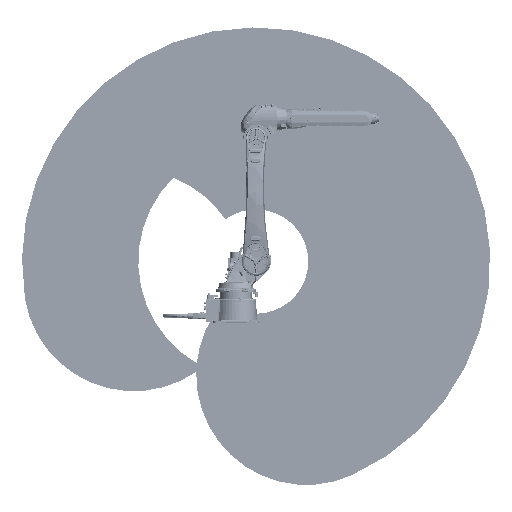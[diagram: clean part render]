
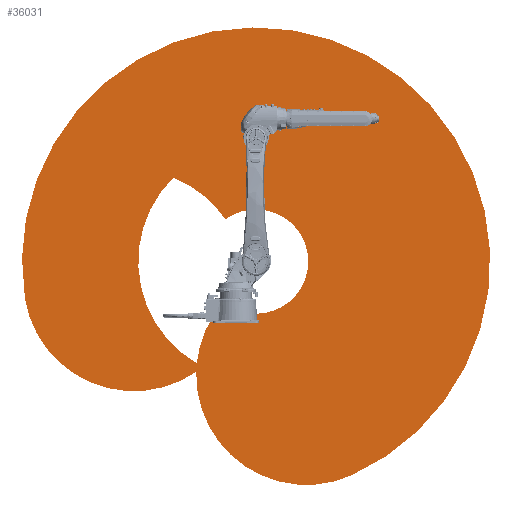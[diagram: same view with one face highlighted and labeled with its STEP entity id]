
A CAD part, front view. The second image highlights one B-rep face of the part: STEP entity #36031.
In plain terms, the highlighted planar face has unit normal (0, -1, 0).
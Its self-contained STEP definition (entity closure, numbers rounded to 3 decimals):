
#6791=PLANE('',#120644);
#36031=ADVANCED_FACE('',(#40790,#40791),#6791,.T.);
#40790=FACE_BOUND('',#49305,.T.);
#40791=FACE_BOUND('',#49306,.T.);
#49305=EDGE_LOOP('',(#79723,#79724,#79725));
#49306=EDGE_LOOP('',(#79726,#79727,#79728,#79729));
#79723=ORIENTED_EDGE('',*,*,#104966,.T.);
#79724=ORIENTED_EDGE('',*,*,#104967,.T.);
#79725=ORIENTED_EDGE('',*,*,#104968,.T.);
#79726=ORIENTED_EDGE('',*,*,#104969,.T.);
#79727=ORIENTED_EDGE('',*,*,#104970,.T.);
#79728=ORIENTED_EDGE('',*,*,#104971,.T.);
#79729=ORIENTED_EDGE('',*,*,#104972,.T.);
#89751=VERTEX_POINT('',#272351);
#89752=VERTEX_POINT('',#272352);
#89753=VERTEX_POINT('',#272354);
#89754=VERTEX_POINT('',#272357);
#89755=VERTEX_POINT('',#272358);
#89756=VERTEX_POINT('',#272360);
#89757=VERTEX_POINT('',#272362);
#104966=EDGE_CURVE('',#89751,#89752,#109984,.T.);
#104967=EDGE_CURVE('',#89752,#89753,#109985,.T.);
#104968=EDGE_CURVE('',#89753,#89751,#109986,.T.);
#104969=EDGE_CURVE('',#89754,#89755,#109987,.T.);
#104970=EDGE_CURVE('',#89755,#89756,#109988,.T.);
#104971=EDGE_CURVE('',#89756,#89757,#109989,.T.);
#104972=EDGE_CURVE('',#89757,#89754,#109990,.T.);
#109984=CIRCLE('',#120637,872.983);
#109985=CIRCLE('',#120638,872.983);
#109986=CIRCLE('',#120639,1852.983);
#109987=CIRCLE('',#120640,872.983);
#109988=CIRCLE('',#120641,932.588);
#109989=CIRCLE('',#120642,872.983);
#109990=CIRCLE('',#120643,412.83);
#120637=AXIS2_PLACEMENT_3D('',#272350,#148544,#148545);
#120638=AXIS2_PLACEMENT_3D('',#272353,#148546,#148547);
#120639=AXIS2_PLACEMENT_3D('',#272355,#148548,#148549);
#120640=AXIS2_PLACEMENT_3D('',#272356,#148550,#148551);
#120641=AXIS2_PLACEMENT_3D('',#272359,#148552,#148553);
#120642=AXIS2_PLACEMENT_3D('',#272361,#148554,#148555);
#120643=AXIS2_PLACEMENT_3D('',#272363,#148556,#148557);
#120644=AXIS2_PLACEMENT_3D('',#272364,#148558,#148559);
#148544=DIRECTION('',(0.,-1.,0.));
#148545=DIRECTION('',(1.,0.,0.));
#148546=DIRECTION('',(0.,-1.,0.));
#148547=DIRECTION('',(1.,0.,0.));
#148548=DIRECTION('',(0.,-1.,0.));
#148549=DIRECTION('',(1.,0.,0.));
#148550=DIRECTION('',(0.,-1.,0.));
#148551=DIRECTION('',(1.,0.,0.));
#148552=DIRECTION('',(0.,1.,0.));
#148553=DIRECTION('',(1.,0.,0.));
#148554=DIRECTION('',(0.,1.,0.));
#148555=DIRECTION('',(1.,0.,0.));
#148556=DIRECTION('',(0.,1.,0.));
#148557=DIRECTION('',(1.,0.,0.));
#148558=DIRECTION('',(0.,-1.,0.));
#148559=DIRECTION('',(0.,0.,-1.));
#272350=CARTESIAN_POINT('',(13300.925,3732.289,-153.306));
#272351=CARTESIAN_POINT('',(12438.689,3732.289,-289.87));
#272352=CARTESIAN_POINT('',(13794.757,3732.289,-873.187));
#272353=CARTESIAN_POINT('',(14667.461,3732.289,-895.275));
#272354=CARTESIAN_POINT('',(15022.536,3732.289,-1692.785));
#272355=CARTESIAN_POINT('',(14268.859,3732.289,0.));
#272356=CARTESIAN_POINT('',(14667.461,3732.289,-895.275));
#272357=CARTESIAN_POINT('',(14009.674,3732.289,-321.327));
#272358=CARTESIAN_POINT('',(13799.093,3732.289,-805.631));
#272359=CARTESIAN_POINT('',(14268.859,3732.289,0.));
#272360=CARTESIAN_POINT('',(13612.265,3732.289,662.272));
#272361=CARTESIAN_POINT('',(13300.925,3732.289,-153.306));
#272362=CARTESIAN_POINT('',(14025.563,3732.289,333.52));
#272363=CARTESIAN_POINT('',(14268.859,3732.289,0.));
#272364=CARTESIAN_POINT('',(13984.193,3732.289,-524.29));
